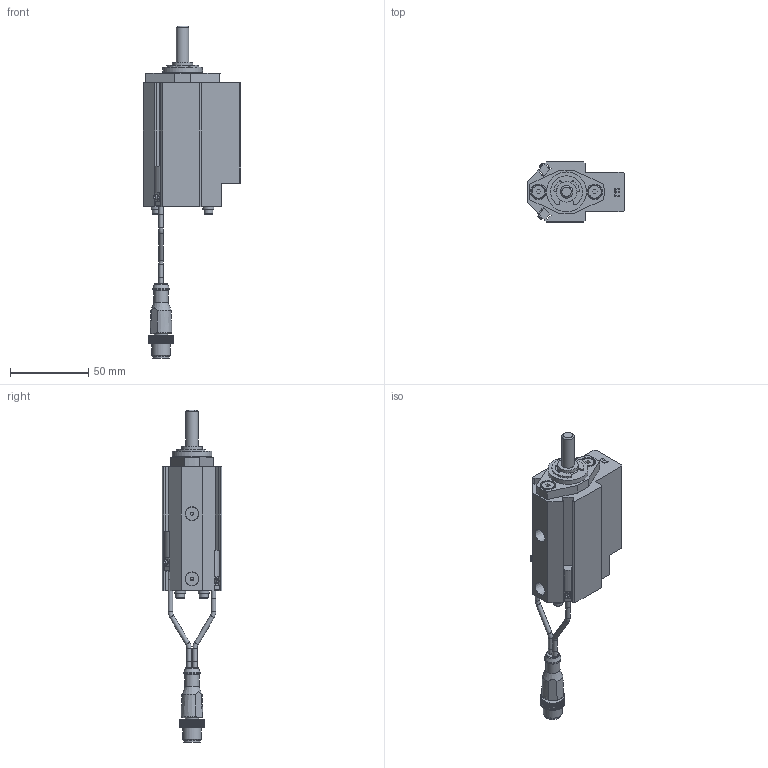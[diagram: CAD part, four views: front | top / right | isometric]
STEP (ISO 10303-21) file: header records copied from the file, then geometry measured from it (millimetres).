
FILE_DESCRIPTION(/* description */ ('NAAMS FLOATING MICRO PIN'),/* implementation_level */ '2;1');
FILE_NAME(/* name */ 'C:\Vault Workspace\CAD\Welker\Shot Pin\NMP\NMP080022EENL3.stp',/* time_stamp */ '2021-01-28T11:52:56-05:00',/* author */ ('WELKER'),/* organization */ (''),/* preprocessor_version */ 'ST-DEVELOPER v18.1',/* originating_system */ 'Autodesk Inventor 2020',/* authorisation */ '');
FILE_SCHEMA (('AUTOMOTIVE_DESIGN { 1 0 10303 214 3 1 1 }'));
Length unit declared in the file: millimetre
Products named in the file (16): NMPL01; NMP L3 SWITCH; L3 Connector; L3 Sensor 1; L3 Sensor 2; L3 Sensor cable; L3 Sensor cable 2; M3X0.5-8 SHCS; NL3; NMPE06; NMPE03; NMPE04-DIA-LENGTH; 985432A218; NMPE01E-PORT; RMPE02; M5X5 SHOULDER
Assembly tree (22 placements, depth 3):
  NMPL01
    NMP L3 SWITCH
      L3 Connector
      L3 Sensor 1
      L3 Sensor 2
      L3 Sensor cable
      L3 Sensor cable 2
    M3X0.5-8 SHCS  x4
    NL3  x4
    NMPE06
    NMPE03
    NMPE04-DIA-LENGTH
    985432A218
    NMPE01E-PORT
    RMPE02
    M5X5 SHOULDER  x2
Bounding box: 62 x 38.1 x 211.52 mm (x, y, z)
Volume: 113360.7 mm3; surface area: 44711 mm2
Topology: 21 solids, 21 shells, 748 faces, 2027 edges, 1354 vertices
Faces by surface type: plane 554, cylinder 144, cone 35, torus 11, bspline 2, sphere 2
Full cylindrical faces by diameter (mm): 2 x2, 2.459 x4, 2.9 x10, 3 x5, 3.242 x2, 3.4 x4, 4 x2, 5 x6, 5.5 x4, 6.647 x2, 7 x4, 8 x3, 8.3 x2, 9 x3, 10 x3, 10.4 x1, 10.5 x1, 12 x1, 13 x3, 16 x2, 19.05 x3, 21 x1, 22.5 x1, 23.672 x1, 24 x1, 25.4 x1, 25.5 x1, 26.5 x1, 28.677 x1, 29.21 x1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
Entity records: 22829 total; most frequent: CARTESIAN_POINT 4175, ORIENTED_EDGE 3746, DIRECTION 3730, EDGE_CURVE 1873, LINE 1388, VECTOR 1388, VERTEX_POINT 1259, AXIS2_PLACEMENT_3D 1171
